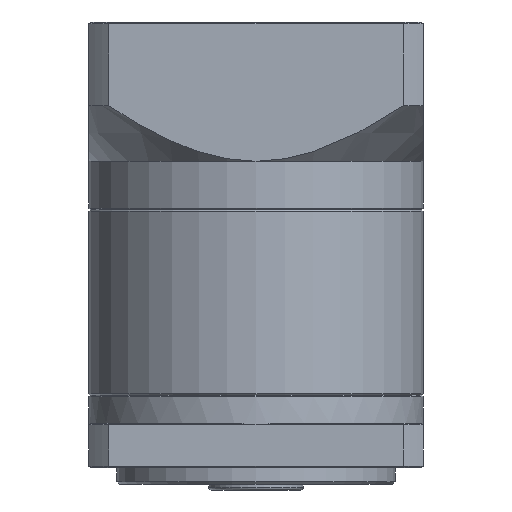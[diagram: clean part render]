
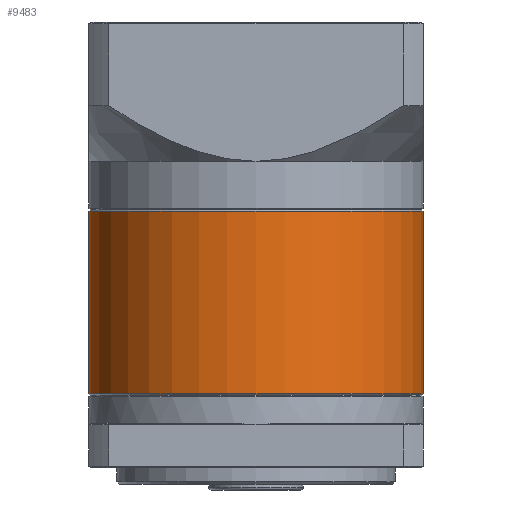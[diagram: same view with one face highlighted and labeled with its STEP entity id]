
A CAD part, front view. The second image highlights one B-rep face of the part: STEP entity #9483.
In plain terms, the highlighted cylindrical face has radius 30 mm (diameter 60 mm), a partial arc.
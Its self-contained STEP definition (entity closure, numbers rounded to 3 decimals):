
#661 = CARTESIAN_POINT ( 'NONE',  ( -96.425, 14.93, 4.12 ) ) ;
#2879 = CARTESIAN_POINT ( 'NONE',  ( -66.425, 14.93, 4.12 ) ) ;
#3687 = VECTOR ( 'NONE', #32218, 1000. ) ;
#7482 = EDGE_LOOP ( 'NONE', ( #23515, #27887, #35646, #33587 ) ) ;
#9483 = ADVANCED_FACE ( 'NONE', ( #26476 ), #86961, .T. ) ;
#9846 = DIRECTION ( 'NONE',  ( 1., 0., 0. ) ) ;
#14437 = CARTESIAN_POINT ( 'NONE',  ( -66.425, 14.93, 4.37 ) ) ;
#16521 = VECTOR ( 'NONE', #36844, 1000. ) ;
#17306 = CARTESIAN_POINT ( 'NONE',  ( -66.425, 14.93, -28.68 ) ) ;
#19922 = LINE ( 'NONE', #25263, #3687 ) ;
#21753 = DIRECTION ( 'NONE',  ( -1., 0., 0. ) ) ;
#23474 = EDGE_CURVE ( 'NONE', #31849, #67224, #19922, .T. ) ;
#23515 = ORIENTED_EDGE ( 'NONE', *, *, #85811, .F. ) ;
#24269 = DIRECTION ( 'NONE',  ( 1., 0., 0. ) ) ;
#25263 = CARTESIAN_POINT ( 'NONE',  ( -96.425, 14.93, 4.37 ) ) ;
#26476 = FACE_OUTER_BOUND ( 'NONE', #7482, .T. ) ;
#27887 = ORIENTED_EDGE ( 'NONE', *, *, #50987, .T. ) ;
#31849 = VERTEX_POINT ( 'NONE', #661 ) ;
#32218 = DIRECTION ( 'NONE',  ( 0., 0., -1. ) ) ;
#33587 = ORIENTED_EDGE ( 'NONE', *, *, #50531, .T. ) ;
#35646 = ORIENTED_EDGE ( 'NONE', *, *, #23474, .T. ) ;
#36844 = DIRECTION ( 'NONE',  ( 0., 0., -1. ) ) ;
#39843 = AXIS2_PLACEMENT_3D ( 'NONE', #2879, #51327, #9846 ) ;
#42537 = VERTEX_POINT ( 'NONE', #83614 ) ;
#43301 = CARTESIAN_POINT ( 'NONE',  ( -96.425, 14.93, -28.68 ) ) ;
#49746 = AXIS2_PLACEMENT_3D ( 'NONE', #17306, #65654, #24269 ) ;
#50531 = EDGE_CURVE ( 'NONE', #67224, #42537, #73785, .T. ) ;
#50987 = EDGE_CURVE ( 'NONE', #54986, #31849, #71458, .T. ) ;
#51327 = DIRECTION ( 'NONE',  ( 0., 0., -1. ) ) ;
#54986 = VERTEX_POINT ( 'NONE', #83905 ) ;
#65654 = DIRECTION ( 'NONE',  ( 0., 0., 1. ) ) ;
#67224 = VERTEX_POINT ( 'NONE', #43301 ) ;
#71458 = CIRCLE ( 'NONE', #39843, 30. ) ;
#73785 = CIRCLE ( 'NONE', #49746, 30. ) ;
#77356 = AXIS2_PLACEMENT_3D ( 'NONE', #14437, #83638, #21753 ) ;
#83614 = CARTESIAN_POINT ( 'NONE',  ( -36.425, 14.93, -28.68 ) ) ;
#83638 = DIRECTION ( 'NONE',  ( 0., 0., -1. ) ) ;
#83905 = CARTESIAN_POINT ( 'NONE',  ( -36.425, 14.93, 4.12 ) ) ;
#85137 = CARTESIAN_POINT ( 'NONE',  ( -36.425, 14.93, 4.37 ) ) ;
#85811 = EDGE_CURVE ( 'NONE', #54986, #42537, #87887, .T. ) ;
#86961 = CYLINDRICAL_SURFACE ( 'NONE', #77356, 30. ) ;
#87887 = LINE ( 'NONE', #85137, #16521 ) ;
